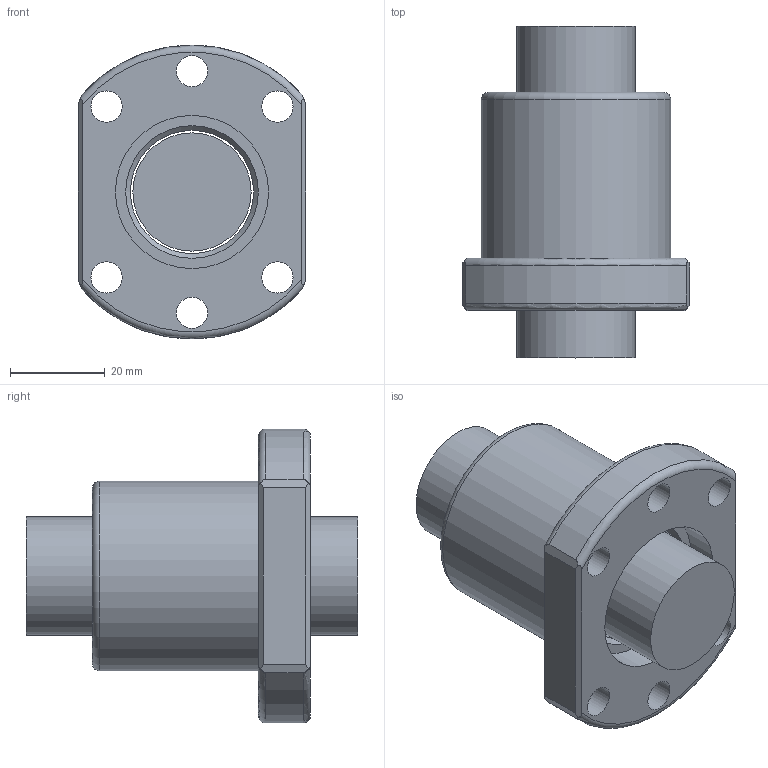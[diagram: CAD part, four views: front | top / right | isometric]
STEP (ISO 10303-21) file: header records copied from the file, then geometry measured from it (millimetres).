
FILE_DESCRIPTION(/* description */ (''),/* implementation_level */ '2;1');
FILE_NAME(/* name */ '2504.prt.step',/* time_stamp */ '2008-12-05T16:31:43+08:00',/* author */ (''),/* organization */ (''),/* preprocessor_version */ 'ST-DEVELOPER v11',/* originating_system */ 'SIEMENS UGS NX 6.0',/* authorisation */ '');
FILE_SCHEMA (('AUTOMOTIVE_DESIGN { 1 0 10303 214 1 1 1 1 }'));
Length unit declared in the file: millimetre
Products named in the file (1): 2504
Bounding box: 48 x 70 x 62 mm (x, y, z)
Volume: 76424.3 mm3; surface area: 21700 mm2
Topology: 2 solids, 2 shells, 38 faces, 97 edges, 66 vertices
Faces by surface type: plane 17, cylinder 13, torus 6, cone 2
Full cylindrical faces by diameter (mm): 6.6 x6, 24.95 x1, 26 x1, 32.3 x2, 40 x1
Entity records: 1286 total; most frequent: CARTESIAN_POINT 411, DIRECTION 170, ORIENTED_EDGE 148, EDGE_CURVE 74, AXIS2_PLACEMENT_3D 73, EDGE_LOOP 70, VERTEX_POINT 58, FACE_BOUND 52
